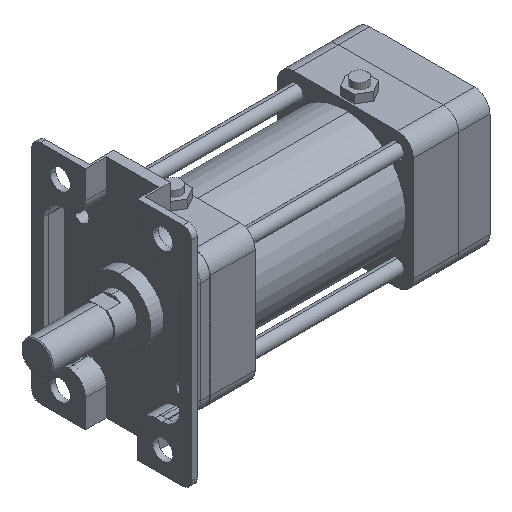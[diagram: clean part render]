
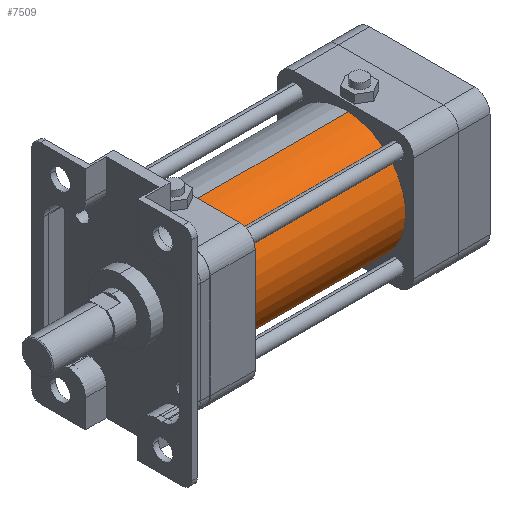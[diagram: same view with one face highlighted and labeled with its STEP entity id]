
A CAD part, isometric view. The second image highlights one B-rep face of the part: STEP entity #7509.
In plain terms, the highlighted cylindrical face has radius 34.5 mm (diameter 69 mm), a partial arc.
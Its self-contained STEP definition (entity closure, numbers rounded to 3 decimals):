
#633 = VERTEX_POINT ( 'NONE', #3541 ) ;
#1069 = DIRECTION ( 'NONE',  ( 0., 0., 1. ) ) ;
#1178 = LINE ( 'NONE', #2872, #7328 ) ;
#1183 = CARTESIAN_POINT ( 'NONE',  ( 45.5, 0., 34.5 ) ) ;
#1272 = VERTEX_POINT ( 'NONE', #1665 ) ;
#1294 = ORIENTED_EDGE ( 'NONE', *, *, #9781, .T. ) ;
#1665 = CARTESIAN_POINT ( 'NONE',  ( -45.5, 0., 34.5 ) ) ;
#1864 = AXIS2_PLACEMENT_3D ( 'NONE', #2920, #9271, #11165 ) ;
#1921 = ORIENTED_EDGE ( 'NONE', *, *, #10367, .T. ) ;
#2652 = CIRCLE ( 'NONE', #7506, 34.5 ) ;
#2668 = DIRECTION ( 'NONE',  ( 0., 0., 1. ) ) ;
#2853 = DIRECTION ( 'NONE',  ( -1., 0., 0. ) ) ;
#2872 = CARTESIAN_POINT ( 'NONE',  ( -29.1, 0., 34.5 ) ) ;
#2920 = CARTESIAN_POINT ( 'NONE',  ( -45.5, 0., 0. ) ) ;
#3541 = CARTESIAN_POINT ( 'NONE',  ( 45.5, 0., -34.5 ) ) ;
#3891 = CARTESIAN_POINT ( 'NONE',  ( -29.1, 0., 0. ) ) ;
#4282 = EDGE_CURVE ( 'NONE', #633, #11392, #5913, .T. ) ;
#4355 = EDGE_CURVE ( 'NONE', #11392, #1272, #7416, .T. ) ;
#4798 = CARTESIAN_POINT ( 'NONE',  ( -29.1, 0., -34.5 ) ) ;
#4813 = FACE_OUTER_BOUND ( 'NONE', #10180, .T. ) ;
#4839 = CYLINDRICAL_SURFACE ( 'NONE', #4973, 34.5 ) ;
#4848 = CARTESIAN_POINT ( 'NONE',  ( -45.5, 0., -34.5 ) ) ;
#4949 = DIRECTION ( 'NONE',  ( -1., 0., 0. ) ) ;
#4973 = AXIS2_PLACEMENT_3D ( 'NONE', #3891, #5211, #1069 ) ;
#5128 = CARTESIAN_POINT ( 'NONE',  ( 45.5, 0., 0. ) ) ;
#5211 = DIRECTION ( 'NONE',  ( -1., 0., 0. ) ) ;
#5862 = VECTOR ( 'NONE', #6288, 1000. ) ;
#5913 = LINE ( 'NONE', #4798, #5862 ) ;
#6288 = DIRECTION ( 'NONE',  ( -1., 0., 0. ) ) ;
#7328 = VECTOR ( 'NONE', #4949, 1000. ) ;
#7416 = CIRCLE ( 'NONE', #1864, 34.5 ) ;
#7506 = AXIS2_PLACEMENT_3D ( 'NONE', #5128, #2853, #2668 ) ;
#7509 = ADVANCED_FACE ( 'NONE', ( #4813 ), #4839, .T. ) ;
#7636 = VERTEX_POINT ( 'NONE', #1183 ) ;
#8978 = ORIENTED_EDGE ( 'NONE', *, *, #4355, .F. ) ;
#9271 = DIRECTION ( 'NONE',  ( -1., 0., 0. ) ) ;
#9424 = ORIENTED_EDGE ( 'NONE', *, *, #4282, .F. ) ;
#9781 = EDGE_CURVE ( 'NONE', #633, #7636, #2652, .T. ) ;
#10180 = EDGE_LOOP ( 'NONE', ( #9424, #1294, #1921, #8978 ) ) ;
#10367 = EDGE_CURVE ( 'NONE', #7636, #1272, #1178, .T. ) ;
#11165 = DIRECTION ( 'NONE',  ( 0., 0., 1. ) ) ;
#11392 = VERTEX_POINT ( 'NONE', #4848 ) ;
